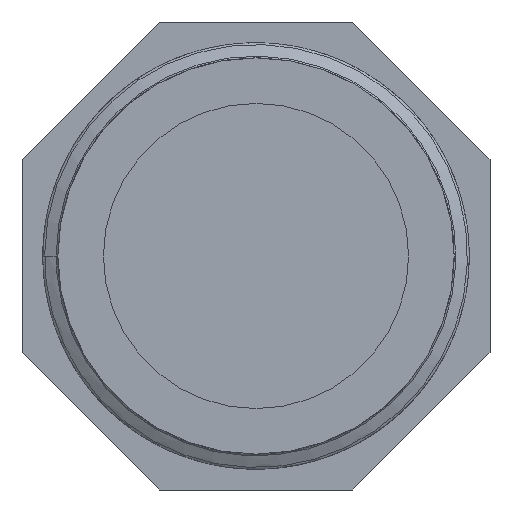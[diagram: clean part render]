
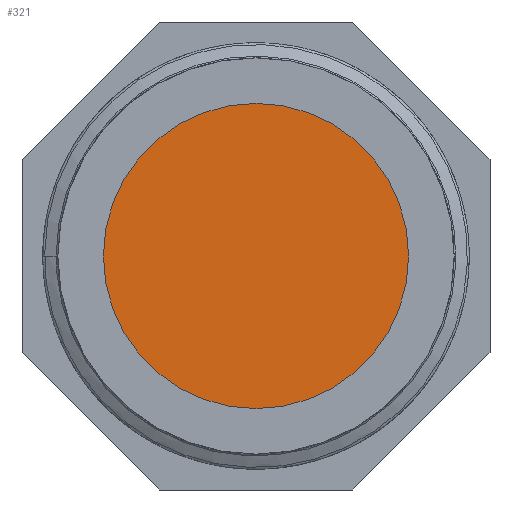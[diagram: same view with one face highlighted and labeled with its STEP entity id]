
A CAD part, front view. The second image highlights one B-rep face of the part: STEP entity #321.
In plain terms, the highlighted planar face has unit normal (0, -1, 0).
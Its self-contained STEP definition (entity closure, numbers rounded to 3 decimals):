
#22=PLANE('',#342);
#37=CIRCLE('',#343,15.);
#47=FACE_OUTER_BOUND('',#68,.T.);
#68=EDGE_LOOP('',(#263));
#166=VERTEX_POINT('',#4177);
#202=EDGE_CURVE('',#166,#166,#37,.T.);
#263=ORIENTED_EDGE('',*,*,#202,.F.);
#321=ADVANCED_FACE('',(#47),#22,.T.);
#342=AXIS2_PLACEMENT_3D('',#4176,#383,#384);
#343=AXIS2_PLACEMENT_3D('',#4178,#385,#386);
#383=DIRECTION('center_axis',(0.,-1.,0.));
#384=DIRECTION('ref_axis',(0.,0.,-1.));
#385=DIRECTION('center_axis',(0.,1.,0.));
#386=DIRECTION('ref_axis',(1.,0.,0.));
#4176=CARTESIAN_POINT('Origin',(0.,22.,0.));
#4177=CARTESIAN_POINT('',(-15.,22.,0.));
#4178=CARTESIAN_POINT('Origin',(0.,22.,0.));
